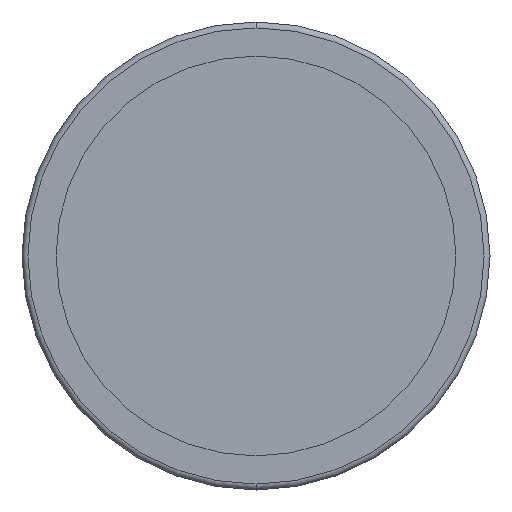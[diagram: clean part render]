
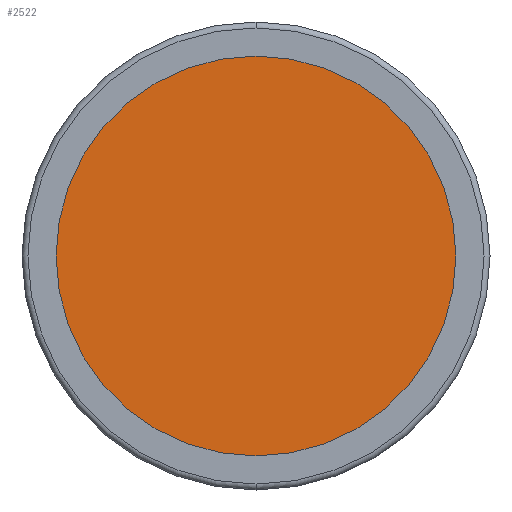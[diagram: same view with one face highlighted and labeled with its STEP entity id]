
A CAD part, front view. The second image highlights one B-rep face of the part: STEP entity #2522.
In plain terms, the highlighted planar face has unit normal (0, -1, 0).
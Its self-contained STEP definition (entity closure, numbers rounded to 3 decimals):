
#108 = EDGE_LOOP ( 'NONE', ( #1376, #2568 ) ) ;
#133 = AXIS2_PLACEMENT_3D ( 'NONE', #2108, #2802, #1367 ) ;
#271 = AXIS2_PLACEMENT_3D ( 'NONE', #2756, #1095, #835 ) ;
#400 = DIRECTION ( 'NONE',  ( 0., 1., 0. ) ) ;
#560 = EDGE_CURVE ( 'NONE', #2749, #749, #3171, .T. ) ;
#744 = FACE_OUTER_BOUND ( 'NONE', #108, .T. ) ;
#749 = VERTEX_POINT ( 'NONE', #2591 ) ;
#835 = DIRECTION ( 'NONE',  ( 0., 0., 1. ) ) ;
#995 = PLANE ( 'NONE',  #133 ) ;
#1095 = DIRECTION ( 'NONE',  ( 0., 1., 0. ) ) ;
#1152 = CARTESIAN_POINT ( 'NONE',  ( 0., -2., 0. ) ) ;
#1367 = DIRECTION ( 'NONE',  ( 0., 0., -1. ) ) ;
#1376 = ORIENTED_EDGE ( 'NONE', *, *, #3148, .F. ) ;
#1932 = CIRCLE ( 'NONE', #2002, 33.75 ) ;
#2002 = AXIS2_PLACEMENT_3D ( 'NONE', #1152, #400, #2863 ) ;
#2108 = CARTESIAN_POINT ( 'NONE',  ( -33.75, -2., 0. ) ) ;
#2522 = ADVANCED_FACE ( 'NONE', ( #744 ), #995, .T. ) ;
#2568 = ORIENTED_EDGE ( 'NONE', *, *, #560, .F. ) ;
#2591 = CARTESIAN_POINT ( 'NONE',  ( 0., -2., 33.75 ) ) ;
#2749 = VERTEX_POINT ( 'NONE', #2982 ) ;
#2756 = CARTESIAN_POINT ( 'NONE',  ( 0., -2., 0. ) ) ;
#2802 = DIRECTION ( 'NONE',  ( 0., -1., 0. ) ) ;
#2863 = DIRECTION ( 'NONE',  ( 0., 0., 1. ) ) ;
#2982 = CARTESIAN_POINT ( 'NONE',  ( 0., -2., -33.75 ) ) ;
#3148 = EDGE_CURVE ( 'NONE', #749, #2749, #1932, .T. ) ;
#3171 = CIRCLE ( 'NONE', #271, 33.75 ) ;
